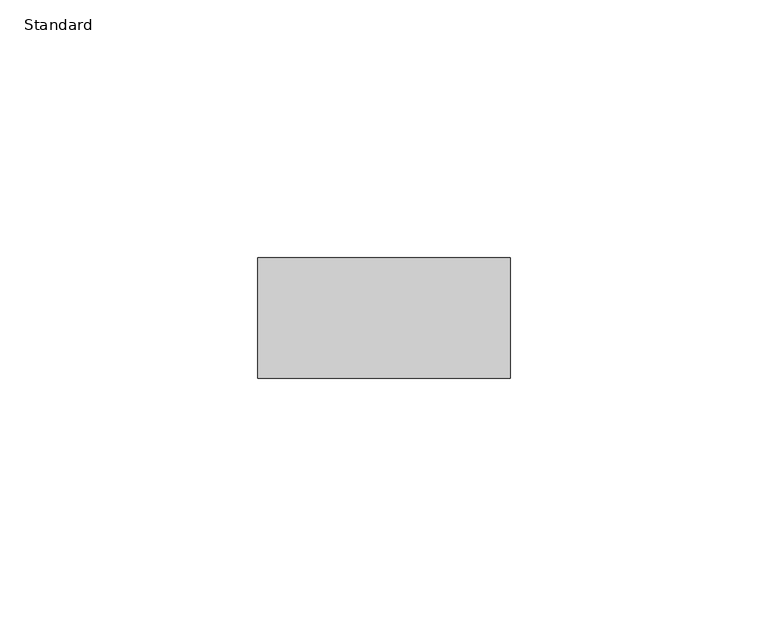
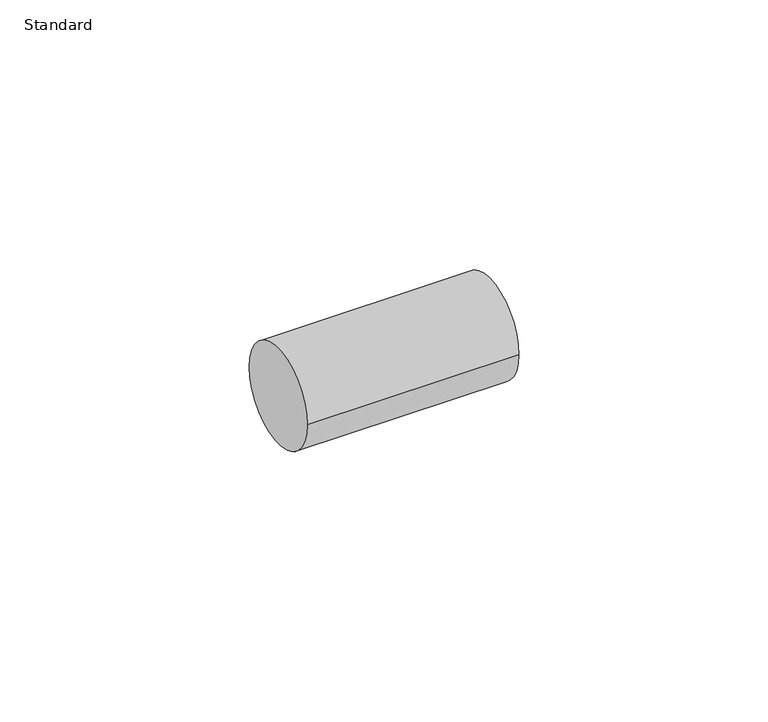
"""IFC4 building model written with IfcOpenShell, lengths in millimetres: pipe fitting geometry, Cap_Lubrizol_CPVC_FlowGuard_MX : Standard."""

from ifc_helpers import new_model, si_unit, point, frame, origin, origin_2d, place, context, project, spatial, circle_curve, trimmed, segment, composite_curve, outline, extrude, source, transform, mapped, element, save


def standard_e0a6170d(model_context):
    return source(origin(), model_context, "Body", "SweptSolid", [
        extrude(outline(composite_curve([segment(trimmed(circle_curve(origin_2d(), 11.7089844), [point((-11.7089844, 0.0))], [point((11.7089844, 0.0))], False, "CARTESIAN"), True, "CONTINUOUS"), segment(trimmed(circle_curve(origin_2d(), 11.7089844), [point((11.7089844, 0.0))], [point((-11.7089844, 0.0))], False, "CARTESIAN"), True, "CONTINUOUS")], self_intersect=False)), frame((0.0, 0.0, 0.0), z_axis=(1.0, 0.0, 0.0), x_axis=(0.0, 1.0, 0.0)), (0.0, 0.0, 1.0), 49.0821875),
    ])


if __name__ == "__main__":
    model = new_model("IFC4")
    model_context = context("Model", 3, world=origin())
    ifc_project = project(units=[si_unit("LENGTHUNIT", "METRE", prefix="MILLI")], contexts=[model_context])
    site = spatial("IfcSite", under=ifc_project)
    building = spatial("IfcBuilding", under=site)
    placement = place(None, origin())
    standard_shape = standard_e0a6170d(model_context)
    element("IfcPipeFitting", 1, ObjectType="Cap_Lubrizol_CPVC_FlowGuard_MX : Standard", at=placement, inside=building, context=model_context, shape_type="MappedRepresentation", body=[
        mapped(standard_shape, transform((0.0, 0.0, 0.0), x_axis=(1.0, 0.0, 0.0), y_axis=(0.0, 1.0, 0.0), z_axis=(0.0, 0.0, 1.0))),
    ])
    save(model, "model.ifc")
